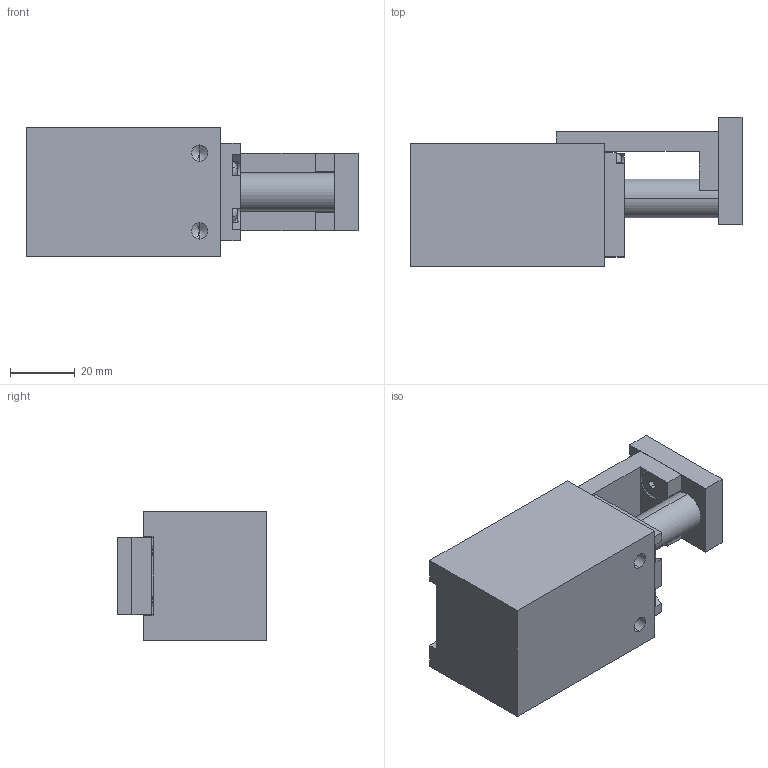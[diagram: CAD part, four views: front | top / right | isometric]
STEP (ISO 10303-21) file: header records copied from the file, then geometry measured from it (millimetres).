
FILE_DESCRIPTION (( 'STEP AP203' ), '1' );
FILE_NAME ('DBSQ-65_Ausgefahren.STEP', '2018-05-09T15:29:19', ( '' ), ( '' ), 'SwSTEP 2.0', 'SolidWorks 2016', '' );
FILE_SCHEMA (( 'CONFIG_CONTROL_DESIGN' ));
Length unit declared in the file: millimetre
Products named in the file (1): DBSQ-65_Ausgefahren
Bounding box: 102.3 x 46 x 40 mm (x, y, z)
Volume: 106389.9 mm3; surface area: 22895.5 mm2
Topology: 3 solids, 4 shells, 201 faces, 505 edges, 318 vertices
Faces by surface type: plane 122, cylinder 51, cone 20, torus 4, sphere 4
Entity records: 6015 total; most frequent: CARTESIAN_POINT 1095, DIRECTION 1026, ORIENTED_EDGE 990, EDGE_CURVE 495, AXIS2_PLACEMENT_3D 353, VECTOR 320, LINE 320, VERTEX_POINT 318
